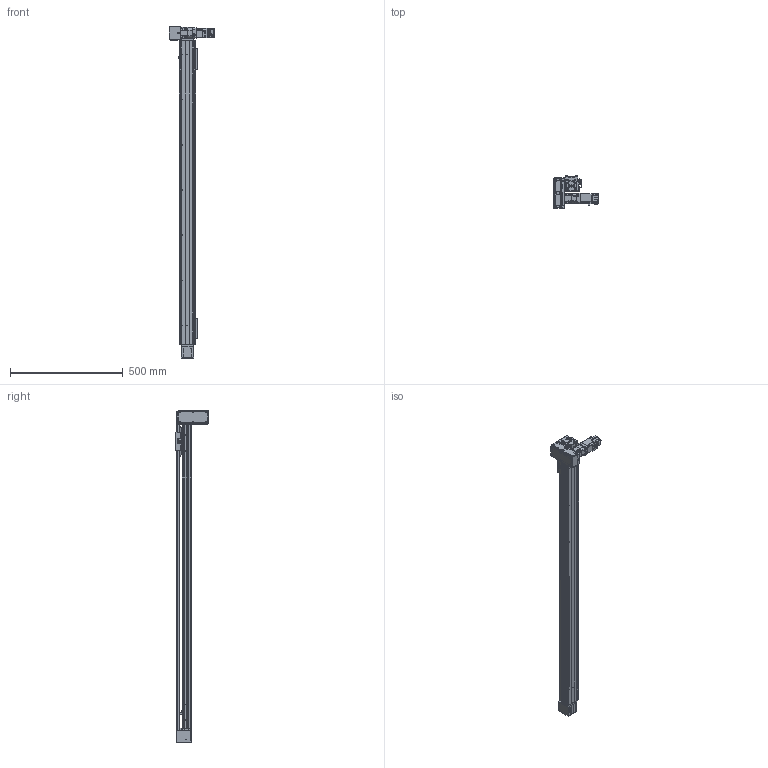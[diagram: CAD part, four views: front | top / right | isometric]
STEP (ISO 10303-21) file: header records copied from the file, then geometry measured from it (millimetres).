
FILE_DESCRIPTION(/* description */ (''),/* implementation_level */ '2;1');
FILE_NAME(/* name */ '\\192.168.0.160\disk1\HAN SHIN Master\B-설계부문\C-표준\B-2024년\BC02-표준도면\+로봇 개선표준도면\홈페이지 표준 도면\홈페이지 최종 작업 폴더\3D\HB\HSB55\HB55-DL1G-N-1200-R.stp',/* time_stamp */ '2025-06-03T10:08:38+09:00',/* author */ ('user'),/* organization */ (''),/* preprocessor_version */ 'ST-DEVELOPER v18.1',/* originating_system */ 'Autodesk Inventor 2022',/* authorisation */ '');
FILE_SCHEMA (('AUTOMOTIVE_DESIGN { 1 0 10303 214 3 1 1 }'));
Products named in the file (39): HSB55-DL1G-N-0500-R; HSB55 BASE; HSB55 TABLE; UPCOVER; HSB55 HOUSING (Connecting); HSB160 SHAFT-1; HSB55 FRONT HOUSIONG; HSB55 REAR SHAFT-1; HSB55 REAR SHAFT; HSB55 DOWN CLAMP; M4-25(렌치볼트); HSB55 HOUSING-R1; HSB55 TENSION PLATE; ISO 4032 - M4; HSB160 BEARING OVER; HSB55 UP CLAMP; HR45 SENSOR DOG; HR45 SENSOR RAIL; hsr_ftht_A-M6F_grease_nipple_joint; NIPPLE CAP(신규); HR45 STOPPER; HSB55 END COVER; EC-6202ZZ; EC-6202ZZ Inner ring; EC-6202ZZ Outer ring; EC-6202ZZ St; EC-6202ZZ Ball; EC-6202ZZ B1; HSB55 ACRYL COVER-R1; HSB55 ACRYL COVER; EE_SX674A; PGX44-H-1_3; hg-kr13_; MOTOR PLATE-100W(MITSUBISHI); HR65-BELT COVER-COVER; HR65-BELT COVER-COVER3; HSB55 D MOTOR PLATE; HSB55 D BELT COVER; HR65-BELT COVER-COVER2
Assembly tree (62 placements, depth 3):
  HSB55-DL1G-N-0500-R
    HSB55 BASE
    HSB55 TABLE
    UPCOVER
    HSB55 FRONT HOUSIONG  x2
    HSB55 HOUSING (Connecting)
    HSB160 SHAFT-1
    HSB55 REAR SHAFT-1
    #126720  x2
    HSB55 REAR SHAFT
    HSB55 DOWN CLAMP  x2
    HSB55 UP CLAMP  x2
    M4-25(렌치볼트)
    ISO 4032 - M4  x2
    HSB55 HOUSING-R1
    HSB55 TENSION PLATE  x2
    HSB160 BEARING OVER
    HR45 SENSOR DOG
    HR45 SENSOR RAIL  x2
    EE_SX674A  x3
    hsr_ftht_A-M6F_grease_nipple_joint
    NIPPLE CAP(신규)
    HR45 STOPPER  x2
    HSB55 END COVER
    EC-6202ZZ  x2
      EC-6202ZZ Inner ring
      EC-6202ZZ Outer ring
      EC-6202ZZ B1
      EC-6202ZZ St
      EC-6202ZZ Ball
    HSB55 ACRYL COVER  x4
    HSB55 ACRYL COVER-R1
    PGX44-H-1_3
    hg-kr13_
    MOTOR PLATE-100W(MITSUBISHI)
    HR65-BELT COVER-COVER
    HR65-BELT COVER-COVER3
    HSB55 D MOTOR PLATE
    HSB55 D BELT COVER
    HR65-BELT COVER-COVER2  x2
Bounding box: 201.4 x 142.7 x 1470 mm (x, y, z)
Volume: 2464144.8 mm3; surface area: 1050531.1 mm2
Topology: 88 solids, 88 shells, 5091 faces, 13923 edges, 9125 vertices
Faces by surface type: plane 3538, cylinder 1199, cone 275, torus 35, sphere 22, bspline 22
Full cylindrical faces by diameter (mm): 1 x2, 2 x3, 2.013 x4, 2.459 x96, 2.5 x5, 3 x3, 3.242 x70, 3.3 x9, 3.4 x22, 3.5 x75, 4 x11, 4.134 x14, 4.2 x4, 4.5 x45, 4.917 x2, 5 x8, 5.5 x1, 5.6 x3, 5.9 x2, 6 x46, 6.5 x4, 7 x5, 7.5 x4, 8 x15, 8.2 x1, 9 x2, 9.5 x2, 10 x1, 11.5 x2, 12 x6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
Entity records: 126670 total; most frequent: CARTESIAN_POINT 25703, ORIENTED_EDGE 20720, DIRECTION 20309, EDGE_CURVE 10360, LINE 7429, VECTOR 7429, VERTEX_POINT 6825, AXIS2_PLACEMENT_3D 6440
